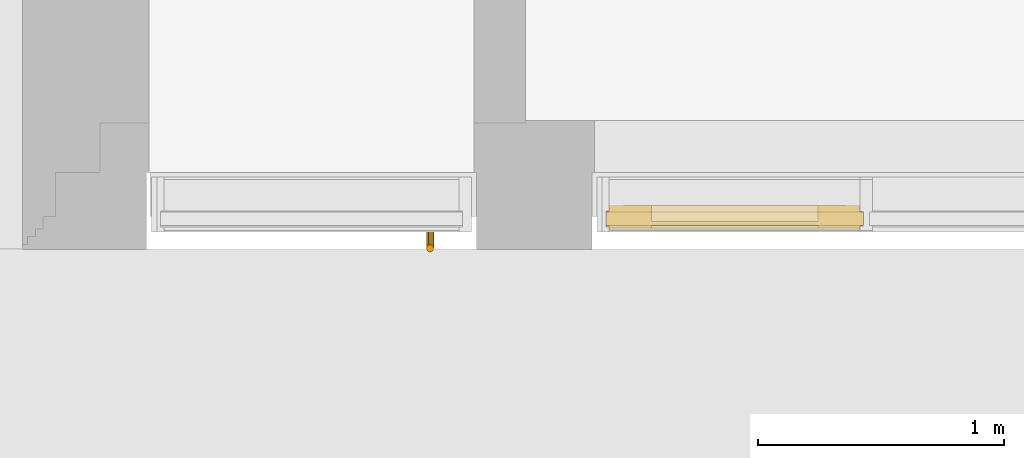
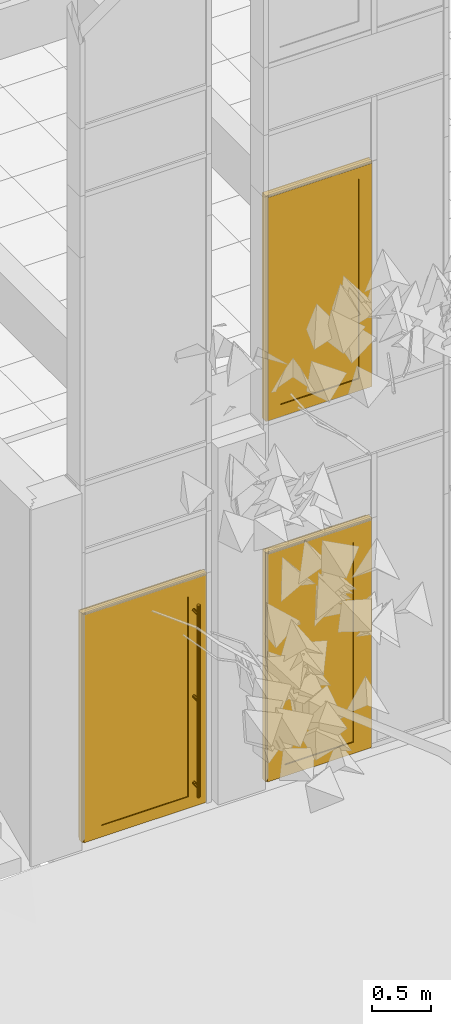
# One storey, part 143 of 246: 2 doors, 1 window, 2 elements without a shape of their own.
"""IFC2X3 building model written with IfcOpenShell, lengths in millimetres."""

import ifcopenshell
import ifcopenshell.guid

model = None  # the IFC model being written
_history = None  # IfcOwnerHistory: only IFC2X3 demands one
_inside = {}  # id of a spatial element -> (the spatial element, [elements in it])
_under = {}  # id of a project, library or spatial element -> (it, [spatial elements below it])
_declared = {}  # id of a project -> (the project, [libraries it declares])
_typed = {}  # id of a type object -> (the type object, [elements of that type])
_made_of = {}  # id of a material, layer set ... -> (it, [elements and type objects made of it])


def new_model(schema):
    """Start an empty IFC model of exactly this schema.

    Asked for "IFC4X3", IfcOpenShell would pick the latest addendum, in which some entities
    have other attributes; the version numbers below select the first issue.
    IFC2X3 requires an IfcOwnerHistory on every rooted entity: one is made here for all.
    """
    global model, _history
    if schema == "IFC4X3":
        model = ifcopenshell.file(schema_version=(4, 3, 0, 0))
    else:
        model = ifcopenshell.file(schema=schema)
    _inside.clear()
    _under.clear()
    _declared.clear()
    _typed.clear()
    _made_of.clear()
    _history = None
    if model.schema == "IFC2X3":
        org = make("IfcOrganization", Name="unknown")
        user = make(
            "IfcPersonAndOrganization",
            ThePerson=make("IfcPerson", FamilyName="unknown"),
            TheOrganization=org,
        )
        app = make(
            "IfcApplication",
            ApplicationDeveloper=org,
            Version="unknown",
            ApplicationFullName="unknown",
            ApplicationIdentifier="unknown",
        )
        _history = make(
            "IfcOwnerHistory",
            OwningUser=user,
            OwningApplication=app,
            ChangeAction="ADDED",
            CreationDate=0,
        )
    return model


def make(cls, **values):
    """One entity of the class cls with the attributes given. An attribute that is None is left unset."""
    return model.create_entity(
        cls, **{name: value for name, value in values.items() if value is not None}
    )


def entity(cls, *values):
    """Any entity or typed value of the class cls, its attributes in the order of the schema. None: left unset."""
    e = model.create_entity(cls)
    for i, value in enumerate(values):
        if value is not None:
            e[i] = value
    return e


def rooted(cls, **values):
    """An entity with a GlobalId (a new one), such as an element, a storey or a relation."""
    return make(cls, GlobalId=ifcopenshell.guid.new(), OwnerHistory=_history, **values)


def si_unit(unit_type, name, prefix=None):
    """IfcSIUnit, for example si_unit("LENGTHUNIT", "METRE", prefix="MILLI")."""
    return make("IfcSIUnit", UnitType=unit_type, Prefix=prefix, Name=name)


def converted_unit(unit_type, name, factor, base, dimensions=None, offset=None):
    """IfcConversionBasedUnit, such as the inch: factor (a typed value) times the base unit."""
    return make(
        "IfcConversionBasedUnit"
        if offset is None
        else "IfcConversionBasedUnitWithOffset",
        ConversionOffset=offset,
        Dimensions=None
        if dimensions is None
        else entity("IfcDimensionalExponents", *dimensions),
        UnitType=unit_type,
        Name=name,
        ConversionFactor=make(
            "IfcMeasureWithUnit", ValueComponent=factor, UnitComponent=base
        ),
    )


def derived_unit(unit_type, elements):
    """IfcDerivedUnit: a product of units, each with its exponent."""
    return make(
        "IfcDerivedUnit",
        Elements=[
            make("IfcDerivedUnitElement", Unit=unit, Exponent=power)
            for unit, power in elements
        ],
        UnitType=unit_type,
    )


def money_unit(currency):
    """IfcMonetaryUnit."""
    return make("IfcMonetaryUnit", Currency=currency)


def assignment(units):
    """IfcUnitAssignment: the units of a project."""
    return None if units is None else make("IfcUnitAssignment", Units=units)


def point(xyz):
    """IfcCartesianPoint."""
    return None if xyz is None else make("IfcCartesianPoint", Coordinates=xyz)


def direction(xyz):
    """IfcDirection."""
    return None if xyz is None else make("IfcDirection", DirectionRatios=xyz)


def frame(location, z_axis=None, x_axis=None):
    """IfcAxis2Placement3D, a coordinate frame: its origin and axes. An axis left out is left unset."""
    return make(
        "IfcAxis2Placement3D",
        Location=point(location),
        Axis=direction(z_axis),
        RefDirection=direction(x_axis),
    )


def origin_with_axes():
    """The frame at (0, 0, 0) with the z axis (0, 0, 1) and the x axis (1, 0, 0) written out."""
    return frame((0.0, 0.0, 0.0), z_axis=(0.0, 0.0, 1.0), x_axis=(1.0, 0.0, 0.0))


def place(relative_to, where):
    """IfcLocalPlacement: puts the frame where relative to a parent placement (None: the world)."""
    return make(
        "IfcLocalPlacement", PlacementRelTo=relative_to, RelativePlacement=where
    )


def context(
    kind, dimensions, precision=None, world=None, true_north=None, identifier=None
):
    """IfcGeometricRepresentationContext, for example the 3D "Model" context."""
    return make(
        "IfcGeometricRepresentationContext",
        ContextIdentifier=identifier,
        ContextType=kind,
        CoordinateSpaceDimension=dimensions,
        Precision=precision,
        WorldCoordinateSystem=world,
        TrueNorth=true_north,
    )


def subcontext(parent, identifier, kind, view, scale=None):
    """IfcGeometricRepresentationSubContext, for example "Body" below "Model"."""
    return make(
        "IfcGeometricRepresentationSubContext",
        ContextIdentifier=identifier,
        ContextType=kind,
        ParentContext=parent,
        TargetScale=scale,
        TargetView=view,
    )


def project(units=None, contexts=None):
    """IfcProject with its units and contexts."""
    return rooted(
        "IfcProject",
        Name="project",
        RepresentationContexts=contexts,
        UnitsInContext=assignment(units),
    )


def spatial(cls, under=None, at=None, **own):
    """A site, building, storey or space (cls), placed at a placement, below another one or the project."""
    s = rooted(cls, ObjectPlacement=at, **own)
    if under is not None:
        _under.setdefault(under.id(), (under, []))[1].append(s)
    return s


def faces_of(points, faces, orient=None, outer=None):
    """IfcFace entities. A face is a list of loops; a loop is a list of indices into points, from 0.

    orient and outer hold one flag for each loop. By default every Orientation is true, the
    first loop of a face is its IfcFaceOuterBound and the others are IfcFaceBound.
    """
    made = []
    for i, loops in enumerate(faces):
        bounds = []
        for j, loop in enumerate(loops):
            is_outer = j == 0 if outer is None else outer[i][j]
            bounds.append(
                make(
                    "IfcFaceOuterBound" if is_outer else "IfcFaceBound",
                    Bound=make("IfcPolyLoop", Polygon=[points[k] for k in loop]),
                    Orientation=True if orient is None else orient[i][j],
                )
            )
        made.append(make("IfcFace", Bounds=bounds))
    return made


def open_shell(faces, orient=None, outer=None):
    """The faces of one IfcOpenShell. surface_model builds it on its shared points."""
    return ("IfcOpenShell", faces, orient, outer)


def faceted_brep(points, faces, orient=None, outer=None, voids=None):
    """IfcFacetedBrep: a solid bounded by flat faces; with voids (closed shells), ...WithVoids."""
    shared = [point(p) for p in points]
    hull = make("IfcClosedShell", CfsFaces=faces_of(shared, faces, orient, outer))
    if voids is None:
        return make("IfcFacetedBrep", Outer=hull)
    return make(
        "IfcFacetedBrepWithVoids",
        Outer=hull,
        Voids=[
            make(cls, CfsFaces=faces_of(shared, fs, o, b)) for cls, fs, o, b in voids
        ],
    )


def surface_model(cls, points, shells):
    """IfcFaceBasedSurfaceModel or IfcShellBasedSurfaceModel (cls): surfaces that need not close."""
    shared = [point(p) for p in points]
    made = [make(c, CfsFaces=faces_of(shared, fs, o, b)) for c, fs, o, b in shells]
    if cls == "IfcFaceBasedSurfaceModel":
        return make(cls, FbsmFaces=made)
    return make(cls, SbsmBoundary=made)


def shape(context_of_items, identifier, shape_type, items):
    """IfcShapeRepresentation: the items that make up one representation, for example the "Body"."""
    return make(
        "IfcShapeRepresentation",
        ContextOfItems=context_of_items,
        RepresentationIdentifier=identifier,
        RepresentationType=shape_type,
        Items=items,
    )


def source(mapping_origin, context_of_items, identifier, shape_type, items):
    """IfcRepresentationMap: a shape defined once, which mapped items show again and again."""
    return make(
        "IfcRepresentationMap",
        MappingOrigin=mapping_origin,
        MappedRepresentation=shape(context_of_items, identifier, shape_type, items),
    )


def transform(
    local_origin,
    x_axis=None,
    y_axis=None,
    z_axis=None,
    scale=None,
    scale2=None,
    scale3=None,
    uniform=True,
):
    """IfcCartesianTransformationOperator3D, or its non-uniform kind. x_axis, y_axis, z_axis: its Axis1, 2, 3."""
    if uniform:
        return make(
            "IfcCartesianTransformationOperator3D",
            Axis1=direction(x_axis),
            Axis2=direction(y_axis),
            LocalOrigin=point(local_origin),
            Scale=scale,
            Axis3=direction(z_axis),
        )
    return make(
        "IfcCartesianTransformationOperator3DnonUniform",
        Axis1=direction(x_axis),
        Axis2=direction(y_axis),
        LocalOrigin=point(local_origin),
        Scale=scale,
        Axis3=direction(z_axis),
        Scale2=scale2,
        Scale3=scale3,
    )


def mapped(mapping_source, mapping_target):
    """IfcMappedItem: shows the shape of a source again, moved by a transform."""
    return make(
        "IfcMappedItem", MappingSource=mapping_source, MappingTarget=mapping_target
    )


def material(Name=None, Category=None):
    """IfcMaterial."""
    return make("IfcMaterial", Name=Name, Category=Category)


def material_list(materials):
    """IfcMaterialList."""
    return make("IfcMaterialList", Materials=materials)


def made_of(thing, what):
    """Note that an element or type object is made of a material, layer set ...; save() writes the relation."""
    if what is not None:
        _made_of.setdefault(what.id(), (what, []))[1].append(thing)
    return thing


def type_object(cls, material=None, **own):
    """A type object (cls), such as IfcWallType, which elements share."""
    return made_of(rooted(cls, **own), material)


def element(
    cls,
    number,
    at=None,
    inside=None,
    cuts=None,
    type_object=None,
    material=None,
    context=None,
    identifier="Body",
    shape_type=None,
    held_by="IfcProductDefinitionShape",
    body=None,
    shapes=None,
    **own,
):
    """One element of the class cls, such as IfcWall. Its Tag is "e" and its number.

    at: its placement. inside: the storey or other place that contains it. cuts: it is an
    opening in that element (IfcRelVoidsElement). A single representation is given by context,
    identifier, shape_type and body (its items); several are given by shapes. held_by: the class
    of the entity that holds the representations. save() writes the other relations.
    """
    e = rooted(cls, Tag="e%d" % number, ObjectPlacement=at, **own)
    if body is not None:
        shapes = [shape(context, identifier, shape_type, body)]
    if shapes is not None:
        e.Representation = make(held_by, Representations=shapes)
    if inside is not None:
        _inside.setdefault(inside.id(), (inside, []))[1].append(e)
    if cuts is not None:
        rooted(
            "IfcRelVoidsElement", RelatingBuildingElement=cuts, RelatedOpeningElement=e
        )
    if type_object is not None:
        _typed.setdefault(type_object.id(), (type_object, []))[1].append(e)
    return made_of(e, material)


def aggregate(whole, parts):
    """IfcRelAggregates: a whole, such as a stair, and the parts it consists of."""
    return rooted("IfcRelAggregates", RelatingObject=whole, RelatedObjects=parts)


def save(model, path):
    """Write the relations noted so far, then the file.

    IfcRelAggregates (storeys below a building ...), IfcRelContainedInSpatialStructure (elements
    in a storey), IfcRelDefinesByType, IfcRelAssociatesMaterial and IfcRelDeclares: one each for
    every whole, place, type object, material and project.
    """
    for whole, parts in _under.values():
        aggregate(whole, parts)
    for where, things in _inside.values():
        rooted(
            "IfcRelContainedInSpatialStructure",
            RelatedElements=things,
            RelatingStructure=where,
        )
    for kind, things in _typed.values():
        rooted("IfcRelDefinesByType", RelatedObjects=things, RelatingType=kind)
    for what, things in _made_of.values():
        rooted("IfcRelAssociatesMaterial", RelatedObjects=things, RelatingMaterial=what)
    for by, libraries in _declared.values():
        rooted("IfcRelDeclares", RelatingContext=by, RelatedDefinitions=libraries)
    model.write(path)


model = new_model("IFC2X3")

# Units and contexts
model_context = context("Model", 3, precision=0.01, world=origin_with_axes(), true_north=direction((0.0, 1.0)))
body_context = subcontext(model_context, "Body", "Model", "MODEL_VIEW")
ifc_project = project(units=[si_unit("LENGTHUNIT", "METRE", prefix="MILLI"), si_unit("AREAUNIT", "SQUARE_METRE"), si_unit("VOLUMEUNIT", "CUBIC_METRE"), converted_unit("PLANEANGLEUNIT", "DEGREE", entity("IfcPlaneAngleMeasure", 0.0174532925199), si_unit("PLANEANGLEUNIT", "RADIAN"), dimensions=[0, 0, 0, 0, 0, 0, 0]), si_unit("SOLIDANGLEUNIT", "STERADIAN"), money_unit("EUR"), converted_unit("TIMEUNIT", "Year", entity("IfcTimeMeasure", 31556926.0), si_unit("TIMEUNIT", "SECOND"), dimensions=[0, 0, 1, 0, 0, 0, 0]), si_unit("MASSUNIT", "GRAM", prefix="KILO"), si_unit("THERMODYNAMICTEMPERATUREUNIT", "DEGREE_CELSIUS"), si_unit("LUMINOUSINTENSITYUNIT", "LUMEN"), si_unit("ENERGYUNIT", "JOULE", prefix="MEGA"), derived_unit("THERMALCONDUCTANCEUNIT", [(si_unit("POWERUNIT", "WATT"), 1), (si_unit("LENGTHUNIT", "METRE"), -1), (si_unit("THERMODYNAMICTEMPERATUREUNIT", "KELVIN"), -1)]), derived_unit("SPECIFICHEATCAPACITYUNIT", [(si_unit("ENERGYUNIT", "JOULE"), 1), (si_unit("MASSUNIT", "GRAM", prefix="KILO"), -1), (si_unit("THERMODYNAMICTEMPERATUREUNIT", "KELVIN"), -1)]), derived_unit("MASSDENSITYUNIT", [(si_unit("MASSUNIT", "GRAM", prefix="KILO"), 1), (si_unit("VOLUMEUNIT", "CUBIC_METRE"), -1)])], contexts=[model_context])

# Site, building, storey
site_placement = place(None, origin_with_axes())
site = spatial("IfcSite", under=ifc_project, at=site_placement, Name="L.Koidula tn 11b", CompositionType="ELEMENT")
building_placement = place(site_placement, origin_with_axes())
building = spatial("IfcBuilding", under=site, at=building_placement, Name="Rakvere Riigigümnaasium", CompositionType="ELEMENT")
storey_placement = place(building_placement, origin_with_axes())
storey = spatial("IfcBuildingStorey", under=building, at=storey_placement, Name="1.korrus 0,00", CompositionType="ELEMENT", Elevation=0.0)

# Curtain wall, door, window
curtain_wall_type = type_object("IfcCurtainWallType", Name="Curtain Wall Type", PredefinedType="NOTDEFINED")
curtain_wall_1_placement = place(storey_placement, frame((38273.9956035, 5111.45334637, -8.09717250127e-06), z_axis=(0.0, 0.0, 1.0), x_axis=(1.0, 0.0, 0.0)))
curtain_wall_1 = element("IfcCurtainWall", 1, at=curtain_wall_1_placement, inside=storey, type_object=curtain_wall_type, Name="KLF-05-2A")
ifc_material_1 = material(Name="Alumiiniumprofiil (RAL 7021)")
ifc_material_2 = material(Name="Klaaspakett 3x ribikardinatega")
ifc_material_list_1 = material_list([ifc_material_1, ifc_material_2])
door_style_1 = type_object("IfcDoorStyle", Name="1046 x 2388 x 54", ConstructionType="NOTDEFINED", OperationType="NOTDEFINED", ParameterTakesPrecedence=False, Sizeable=False)
shared_shape_1 = source(origin_with_axes(), body_context, "Body", "SurfaceModel", [
    surface_model("IfcShellBasedSurfaceModel", [(1070.0, 0.0, -53.0), (1017.0, 0.0, -53.0), (1017.0, 2322.0, -53.0), (1070.0, 2375.0, -53.0)], [open_shell([[[0, 1, 2, 3]]])]),
    surface_model("IfcShellBasedSurfaceModel", [(50.0, 2375.0, -53.0), (1070.0, 2375.0, -53.0), (1017.0, 2322.0, -53.0), (103.0, 2322.0, -53.0)], [open_shell([[[0, 1, 2, 3]]])]),
    surface_model("IfcShellBasedSurfaceModel", [(50.0, 0.0, -53.0), (50.0, 2375.0, -53.0), (103.0, 2322.0, -53.0), (103.0, 0.0, -53.0)], [open_shell([[[0, 1, 2, 3]]])]),
    faceted_brep([(1070.0, 0.0, -53.0), (1070.0, 2375.0, -53.0), (1070.0, 2375.0, 37.0), (1070.0, 0.0, 37.0), (1017.0, 0.0, -53.0), (1017.0, 2322.0, -53.0), (1017.0, 2322.0, 37.0), (1017.0, 0.0, 37.0)], [[[0, 1, 2, 3]], [[0, 4, 5, 1]], [[1, 5, 6, 2]], [[3, 2, 6, 7]], [[4, 0, 3, 7]], [[5, 4, 7, 6]]]),
    faceted_brep([(50.0, 2375.0, -53.0), (103.0, 2322.0, -53.0), (103.0, 2322.0, 37.0), (50.0, 2375.0, 37.0), (1070.0, 2375.0, -53.0), (1017.0, 2322.0, -53.0), (1017.0, 2322.0, 37.0), (1070.0, 2375.0, 37.0)], [[[0, 1, 2, 3]], [[0, 4, 5, 1]], [[1, 5, 6, 2]], [[3, 2, 6, 7]], [[4, 0, 3, 7]], [[5, 4, 7, 6]]]),
    faceted_brep([(50.0, 0.0, -53.0), (103.0, 0.0, -53.0), (103.0, 0.0, 37.0), (50.0, 0.0, 37.0), (50.0, 2375.0, -53.0), (103.0, 2322.0, -53.0), (103.0, 2322.0, 37.0), (50.0, 2375.0, 37.0)], [[[0, 1, 2, 3]], [[0, 4, 5, 1]], [[1, 5, 6, 2]], [[3, 2, 6, 7]], [[4, 0, 3, 7]], [[5, 4, 7, 6]]]),
    faceted_brep([(1083.0, 0.0, -27.0), (1083.0, 2388.0, -27.0), (1083.0, 2388.0, 27.0), (1083.0, 0.0, 27.0), (1070.0, 0.0, -27.0), (1070.0, 2375.0, -27.0), (1070.0, 2375.0, 27.0), (1070.0, 0.0, 27.0)], [[[0, 1, 2, 3]], [[0, 4, 5, 1]], [[1, 5, 6, 2]], [[3, 2, 6, 7]], [[4, 0, 3, 7]], [[5, 4, 7, 6]]]),
    faceted_brep([(1083.0, 2388.0, -27.0), (37.0, 2388.0, -27.0), (37.0, 2388.0, 27.0), (1083.0, 2388.0, 27.0), (1070.0, 2375.0, -27.0), (50.0, 2375.0, -27.0), (50.0, 2375.0, 27.0), (1070.0, 2375.0, 27.0)], [[[0, 1, 2, 3]], [[0, 4, 5, 1]], [[1, 5, 6, 2]], [[3, 2, 6, 7]], [[4, 0, 3, 7]], [[5, 4, 7, 6]]]),
    faceted_brep([(37.0, 2388.0, -27.0), (37.0, 0.0, -27.0), (37.0, 0.0, 27.0), (37.0, 2388.0, 27.0), (50.0, 2375.0, -27.0), (50.0, 0.0, -27.0), (50.0, 0.0, 27.0), (50.0, 2375.0, 27.0)], [[[0, 1, 2, 3]], [[0, 4, 5, 1]], [[1, 5, 6, 2]], [[3, 2, 6, 7]], [[4, 0, 3, 7]], [[5, 4, 7, 6]]]),
    faceted_brep([(222.0, 119.0, -53.0), (222.0, 2203.0, -53.0), (222.0, 2203.0, 37.0), (222.0, 119.0, 37.0), (103.0, 0.0, -53.0), (103.0, 2322.0, -53.0), (103.0, 2322.0, 37.0), (103.0, 0.0, 37.0)], [[[0, 1, 2, 3]], [[0, 4, 5, 1]], [[1, 5, 6, 2]], [[3, 2, 6, 7]], [[4, 0, 3, 7]], [[5, 4, 7, 6]]]),
    faceted_brep([(1017.0, 0.0, -53.0), (1017.0, 2322.0, -53.0), (1017.0, 2322.0, 37.0), (1017.0, 0.0, 37.0), (898.0, 119.0, -53.0), (898.0, 2203.0, -53.0), (898.0, 2203.0, 37.0), (898.0, 119.0, 37.0)], [[[0, 1, 2, 3]], [[0, 4, 5, 1]], [[1, 5, 6, 2]], [[3, 2, 6, 7]], [[4, 0, 3, 7]], [[5, 4, 7, 6]]]),
    faceted_brep([(1017.0, 0.0, -53.0), (898.0, 119.0, -53.0), (898.0, 119.0, 37.0), (1017.0, 0.0, 37.0), (103.0, 0.0, -53.0), (222.0, 119.0, -53.0), (222.0, 119.0, 37.0), (103.0, 0.0, 37.0)], [[[0, 1, 2, 3]], [[0, 4, 5, 1]], [[1, 5, 6, 2]], [[3, 2, 6, 7]], [[4, 0, 3, 7]], [[5, 4, 7, 6]]]),
    faceted_brep([(103.0, 2322.0, -53.0), (222.0, 2203.0, -53.0), (222.0, 2203.0, 37.0), (103.0, 2322.0, 37.0), (1017.0, 2322.0, -53.0), (898.0, 2203.0, -53.0), (898.0, 2203.0, 37.0), (1017.0, 2322.0, 37.0)], [[[0, 1, 2, 3]], [[0, 4, 5, 1]], [[1, 5, 6, 2]], [[3, 2, 6, 7]], [[4, 0, 3, 7]], [[5, 4, 7, 6]]]),
    faceted_brep([(222.0, 119.0, 11.0), (898.0, 119.0, 11.0), (898.0, 119.0, 27.0), (222.0, 119.0, 27.0), (222.0, 2203.0, 11.0), (898.0, 2203.0, 11.0), (898.0, 2203.0, 27.0), (222.0, 2203.0, 27.0)], [[[0, 1, 2, 3]], [[0, 4, 5, 1]], [[1, 5, 6, 2]], [[3, 2, 6, 7]], [[4, 0, 3, 7]], [[5, 4, 7, 6]]]),
])
door_1_placement = place(curtain_wall_1_placement, frame((-582.333458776, 0.0, 1200.0), z_axis=(0.0, 0.0, 1.0), x_axis=(-1.0, 0.0, 0.0)))
door_1 = element("IfcDoor", 2, at=door_1_placement, type_object=door_style_1, material=ifc_material_list_1, Name="KLF-05-VU-2", ObjectType="DOOR", context=body_context, shape_type="MappedRepresentation", body=[
    mapped(shared_shape_1, transform((371.666628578, 0.0, -1200.0), x_axis=(-1.0, 0.0, 0.0), y_axis=(0.0, 0.0, 1.0), z_axis=(0.0, 1.0, 0.0))),
])
window_style = type_object("IfcWindowStyle", Name="1046 x 2351 x 65", ConstructionType="NOTDEFINED", OperationType="NOTDEFINED", ParameterTakesPrecedence=False, Sizeable=False)
shared_shape_2 = source(origin_with_axes(), body_context, "Body", "SurfaceModel", [
    surface_model("IfcShellBasedSurfaceModel", [(50.0000055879, 24.9999850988, 43.5), (109.000005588, 83.9999850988, 43.5), (1010.9999851, 83.9999850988, 43.5), (1069.9999851, 24.9999850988, 43.5)], [open_shell([[[0, 1, 2, 3]]])]),
    surface_model("IfcShellBasedSurfaceModel", [(1069.9999851, 24.9999850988, 43.5), (1010.9999851, 83.9999850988, 43.5), (1010.9999851, 2291.0000149, 43.5), (1069.9999851, 2350.0000149, 43.5)], [open_shell([[[0, 1, 2, 3]]])]),
    surface_model("IfcShellBasedSurfaceModel", [(50.0000055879, 2350.0000149, 43.5), (1069.9999851, 2350.0000149, 43.5), (1010.9999851, 2291.0000149, 43.5), (109.000005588, 2291.0000149, 43.5)], [open_shell([[[0, 1, 2, 3]]])]),
    surface_model("IfcShellBasedSurfaceModel", [(50.0000055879, 24.9999850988, 43.5), (50.0000055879, 2350.0000149, 43.5), (109.000005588, 2291.0000149, 43.5), (109.000005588, 83.9999850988, 43.5)], [open_shell([[[0, 1, 2, 3]]])]),
    faceted_brep([(50.0000055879, 24.9999850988, -45.5), (1069.9999851, 24.9999850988, -45.5), (1069.9999851, 24.9999850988, 43.5), (50.0000055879, 24.9999850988, 43.5), (109.000005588, 83.9999850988, -45.5), (1010.9999851, 83.9999850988, -45.5), (1010.9999851, 83.9999850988, 43.5), (109.000005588, 83.9999850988, 43.5)], [[[0, 1, 2, 3]], [[0, 4, 5, 1]], [[1, 5, 6, 2]], [[3, 2, 6, 7]], [[4, 0, 3, 7]], [[5, 4, 7, 6]]]),
    faceted_brep([(1069.9999851, 24.9999850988, -45.5), (1069.9999851, 2350.0000149, -45.5), (1069.9999851, 2350.0000149, 43.5), (1069.9999851, 24.9999850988, 43.5), (1010.9999851, 83.9999850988, -45.5), (1010.9999851, 2291.0000149, -45.5), (1010.9999851, 2291.0000149, 43.5), (1010.9999851, 83.9999850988, 43.5)], [[[0, 1, 2, 3]], [[0, 4, 5, 1]], [[1, 5, 6, 2]], [[3, 2, 6, 7]], [[4, 0, 3, 7]], [[5, 4, 7, 6]]]),
    faceted_brep([(50.0000055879, 2350.0000149, -45.5), (109.000005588, 2291.0000149, -45.5), (109.000005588, 2291.0000149, 43.5), (50.0000055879, 2350.0000149, 43.5), (1069.9999851, 2350.0000149, -45.5), (1010.9999851, 2291.0000149, -45.5), (1010.9999851, 2291.0000149, 43.5), (1069.9999851, 2350.0000149, 43.5)], [[[0, 1, 2, 3]], [[0, 4, 5, 1]], [[1, 5, 6, 2]], [[3, 2, 6, 7]], [[4, 0, 3, 7]], [[5, 4, 7, 6]]]),
    faceted_brep([(50.0000055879, 24.9999850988, -45.5), (109.000005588, 83.9999850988, -45.5), (109.000005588, 83.9999850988, 43.5), (50.0000055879, 24.9999850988, 43.5), (50.0000055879, 2350.0000149, -45.5), (109.000005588, 2291.0000149, -45.5), (109.000005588, 2291.0000149, 43.5), (50.0000055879, 2350.0000149, 43.5)], [[[0, 1, 2, 3]], [[0, 4, 5, 1]], [[1, 5, 6, 2]], [[3, 2, 6, 7]], [[4, 0, 3, 7]], [[5, 4, 7, 6]]]),
    faceted_brep([(36.9999836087, 11.9999985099, -32.5), (1083.00000708, 11.9999985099, -32.5), (1083.00000708, 11.9999985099, 32.5), (36.9999836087, 11.9999985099, 32.5), (50.0000055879, 24.9999850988, -32.5), (1069.9999851, 24.9999850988, -32.5), (1069.9999851, 24.9999850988, 32.5), (50.0000055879, 24.9999850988, 32.5)], [[[0, 1, 2, 3]], [[0, 4, 5, 1]], [[1, 5, 6, 2]], [[3, 2, 6, 7]], [[4, 0, 3, 7]], [[5, 4, 7, 6]]]),
    faceted_brep([(1083.00000708, 11.9999985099, -32.5), (1083.00000708, 2363.00000149, -32.5), (1083.00000708, 2363.00000149, 32.5), (1083.00000708, 11.9999985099, 32.5), (1069.9999851, 24.9999850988, -32.5), (1069.9999851, 2350.0000149, -32.5), (1069.9999851, 2350.0000149, 32.5), (1069.9999851, 24.9999850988, 32.5)], [[[0, 1, 2, 3]], [[0, 4, 5, 1]], [[1, 5, 6, 2]], [[3, 2, 6, 7]], [[4, 0, 3, 7]], [[5, 4, 7, 6]]]),
    faceted_brep([(1083.00000708, 2363.00000149, -32.5), (36.9999836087, 2363.00000149, -32.5), (36.9999836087, 2363.00000149, 32.5), (1083.00000708, 2363.00000149, 32.5), (1069.9999851, 2350.0000149, -32.5), (50.0000055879, 2350.0000149, -32.5), (50.0000055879, 2350.0000149, 32.5), (1069.9999851, 2350.0000149, 32.5)], [[[0, 1, 2, 3]], [[0, 4, 5, 1]], [[1, 5, 6, 2]], [[3, 2, 6, 7]], [[4, 0, 3, 7]], [[5, 4, 7, 6]]]),
    faceted_brep([(36.9999836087, 2363.00000149, -32.5), (36.9999836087, 11.9999985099, -32.5), (36.9999836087, 11.9999985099, 32.5), (36.9999836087, 2363.00000149, 32.5), (50.0000055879, 2350.0000149, -32.5), (50.0000055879, 24.9999850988, -32.5), (50.0000055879, 24.9999850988, 32.5), (50.0000055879, 2350.0000149, 32.5)], [[[0, 1, 2, 3]], [[0, 4, 5, 1]], [[1, 5, 6, 2]], [[3, 2, 6, 7]], [[4, 0, 3, 7]], [[5, 4, 7, 6]]]),
    faceted_brep([(172.000005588, 146.999985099, 43.5), (172.000005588, 146.999985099, -56.5), (172.000005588, 2228.0000149, -56.5), (172.000005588, 2228.0000149, 43.5), (109.000005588, 83.9999850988, 43.5), (109.000005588, 83.9999850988, -56.5), (109.000005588, 2291.0000149, -56.5), (109.000005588, 2291.0000149, 43.5)], [[[0, 1, 2, 3]], [[4, 5, 1, 0]], [[1, 5, 6, 2]], [[3, 2, 6, 7]], [[0, 3, 7, 4]], [[7, 6, 5, 4]]]),
    faceted_brep([(1010.9999851, 83.9999850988, 43.5), (1010.9999851, 83.9999850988, -56.5), (1010.9999851, 2291.0000149, -56.5), (1010.9999851, 2291.0000149, 43.5), (947.999985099, 146.999985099, 43.5), (947.999985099, 146.999985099, -56.5), (947.999985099, 2228.0000149, -56.5), (947.999985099, 2228.0000149, 43.5)], [[[0, 1, 2, 3]], [[4, 5, 1, 0]], [[1, 5, 6, 2]], [[3, 2, 6, 7]], [[0, 3, 7, 4]], [[7, 6, 5, 4]]]),
    faceted_brep([(1010.9999851, 83.9999850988, 43.5), (1010.9999851, 83.9999850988, -56.5), (947.999985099, 146.999985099, -56.5), (947.999985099, 146.999985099, 43.5), (109.000005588, 83.9999850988, 43.5), (109.000005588, 83.9999850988, -56.5), (172.000005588, 146.999985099, -56.5), (172.000005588, 146.999985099, 43.5)], [[[0, 1, 2, 3]], [[4, 5, 1, 0]], [[1, 5, 6, 2]], [[3, 2, 6, 7]], [[0, 3, 7, 4]], [[7, 6, 5, 4]]]),
    faceted_brep([(109.000005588, 2291.0000149, 43.5), (109.000005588, 2291.0000149, -56.5), (172.000005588, 2228.0000149, -56.5), (172.000005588, 2228.0000149, 43.5), (1010.9999851, 2291.0000149, 43.5), (1010.9999851, 2291.0000149, -56.5), (947.999985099, 2228.0000149, -56.5), (947.999985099, 2228.0000149, 43.5)], [[[0, 1, 2, 3]], [[4, 5, 1, 0]], [[1, 5, 6, 2]], [[3, 2, 6, 7]], [[0, 3, 7, 4]], [[7, 6, 5, 4]]]),
    faceted_brep([(172.000005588, 146.999985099, 32.5), (172.000005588, 146.999985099, -32.5), (947.999985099, 146.999985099, -32.5), (947.999985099, 146.999985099, 32.5), (172.000005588, 2228.0000149, 32.5), (172.000005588, 2228.0000149, -32.5), (947.999985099, 2228.0000149, -32.5), (947.999985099, 2228.0000149, 32.5)], [[[0, 1, 2, 3]], [[4, 5, 1, 0]], [[1, 5, 6, 2]], [[3, 2, 6, 7]], [[0, 3, 7, 4]], [[7, 6, 5, 4]]]),
])
window_placement = place(curtain_wall_1_placement, frame((-582.333458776, 0.0, 4932.5), z_axis=(0.0, 0.0, 1.0), x_axis=(-1.0, 0.0, 0.0)))
window = element("IfcWindow", 3, at=window_placement, type_object=window_style, material=ifc_material_list_1, Name="KLF-05-A-1", ObjectType="WINDOW", context=body_context, shape_type="MappedRepresentation", body=[
    mapped(shared_shape_2, transform((371.666628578, 0.0, -1187.5), x_axis=(-1.0, 0.0, 0.0), y_axis=(0.0, 0.0, 1.0), z_axis=(0.0, 1.0, 0.0))),
])
aggregate(curtain_wall_1, [door_1, window])

# Curtain wall, door
curtain_wall_2_placement = place(storey_placement, frame((35950.585925, 5111.45334637, -1.61944652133e-05), z_axis=(0.0, 0.0, 1.0), x_axis=(1.0, 0.0, 0.0)))
curtain_wall_2 = element("IfcCurtainWall", 4, at=curtain_wall_2_placement, inside=storey, type_object=curtain_wall_type, Name="KLF-05-1A")
ifc_material_3 = material(Name="VKR-05_Klaas")
ifc_material_4 = material(Name="teras_must")
ifc_material_5 = material(Name="GENERIC - STRUCTURAL")
ifc_material_list_2 = material_list([ifc_material_1, ifc_material_3, ifc_material_4, ifc_material_5])
door_style_2 = type_object("IfcDoorStyle", Name="1226 x 2388 x 54", ConstructionType="NOTDEFINED", OperationType="NOTDEFINED", ParameterTakesPrecedence=False, Sizeable=False)
shared_shape_3 = source(origin_with_axes(), body_context, "Body", "SurfaceModel", [
    surface_model("IfcShellBasedSurfaceModel", [(1250.22147915, 0.0, -53.0), (1197.22147915, 0.0, -53.0), (1197.22147915, 2322.0, -53.0), (1250.22147915, 2375.0, -53.0)], [open_shell([[[0, 1, 2, 3]]])]),
    surface_model("IfcShellBasedSurfaceModel", [(50.0, 2375.0, -53.0), (1250.22147915, 2375.0, -53.0), (1197.22147915, 2322.0, -53.0), (103.0, 2322.0, -53.0)], [open_shell([[[0, 1, 2, 3]]])]),
    surface_model("IfcShellBasedSurfaceModel", [(50.0, 0.0, -53.0), (50.0, 2375.0, -53.0), (103.0, 2322.0, -53.0), (103.0, 0.0, -53.0)], [open_shell([[[0, 1, 2, 3]]])]),
    faceted_brep([(1250.22147915, 0.0, -53.0), (1250.22147915, 2375.0, -53.0), (1250.22147915, 2375.0, 37.0), (1250.22147915, 0.0, 37.0), (1197.22147915, 0.0, -53.0), (1197.22147915, 2322.0, -53.0), (1197.22147915, 2322.0, 37.0), (1197.22147915, 0.0, 37.0)], [[[0, 1, 2, 3]], [[0, 4, 5, 1]], [[1, 5, 6, 2]], [[3, 2, 6, 7]], [[4, 0, 3, 7]], [[5, 4, 7, 6]]]),
    faceted_brep([(50.0, 2375.0, -53.0), (103.0, 2322.0, -53.0), (103.0, 2322.0, 37.0), (50.0, 2375.0, 37.0), (1250.22147915, 2375.0, -53.0), (1197.22147915, 2322.0, -53.0), (1197.22147915, 2322.0, 37.0), (1250.22147915, 2375.0, 37.0)], [[[0, 1, 2, 3]], [[0, 4, 5, 1]], [[1, 5, 6, 2]], [[3, 2, 6, 7]], [[4, 0, 3, 7]], [[5, 4, 7, 6]]]),
    faceted_brep([(50.0, 0.0, -53.0), (103.0, 0.0, -53.0), (103.0, 0.0, 37.0), (50.0, 0.0, 37.0), (50.0, 2375.0, -53.0), (103.0, 2322.0, -53.0), (103.0, 2322.0, 37.0), (50.0, 2375.0, 37.0)], [[[0, 1, 2, 3]], [[0, 4, 5, 1]], [[1, 5, 6, 2]], [[3, 2, 6, 7]], [[4, 0, 3, 7]], [[5, 4, 7, 6]]]),
    faceted_brep([(1263.22147915, 0.0, -27.0), (1263.22147915, 2388.0, -27.0), (1263.22147915, 2388.0, 27.0), (1263.22147915, 0.0, 27.0), (1250.22147915, 0.0, -27.0), (1250.22147915, 2375.0, -27.0), (1250.22147915, 2375.0, 27.0), (1250.22147915, 0.0, 27.0)], [[[0, 1, 2, 3]], [[0, 4, 5, 1]], [[1, 5, 6, 2]], [[3, 2, 6, 7]], [[4, 0, 3, 7]], [[5, 4, 7, 6]]]),
    faceted_brep([(1263.22147915, 2388.0, -27.0), (37.0, 2388.0, -27.0), (37.0, 2388.0, 27.0), (1263.22147915, 2388.0, 27.0), (1250.22147915, 2375.0, -27.0), (50.0, 2375.0, -27.0), (50.0, 2375.0, 27.0), (1250.22147915, 2375.0, 27.0)], [[[0, 1, 2, 3]], [[0, 4, 5, 1]], [[1, 5, 6, 2]], [[3, 2, 6, 7]], [[4, 0, 3, 7]], [[5, 4, 7, 6]]]),
    faceted_brep([(37.0, 2388.0, -27.0), (37.0, 0.0, -27.0), (37.0, 0.0, 27.0), (37.0, 2388.0, 27.0), (50.0, 2375.0, -27.0), (50.0, 0.0, -27.0), (50.0, 0.0, 27.0), (50.0, 2375.0, 27.0)], [[[0, 1, 2, 3]], [[0, 4, 5, 1]], [[1, 5, 6, 2]], [[3, 2, 6, 7]], [[4, 0, 3, 7]], [[5, 4, 7, 6]]]),
    faceted_brep([(222.0, 119.0, -53.0), (222.0, 2203.0, -53.0), (222.0, 2203.0, 37.0), (222.0, 119.0, 37.0), (103.0, 0.0, -53.0), (103.0, 2322.0, -53.0), (103.0, 2322.0, 37.0), (103.0, 0.0, 37.0)], [[[0, 1, 2, 3]], [[0, 4, 5, 1]], [[1, 5, 6, 2]], [[3, 2, 6, 7]], [[4, 0, 3, 7]], [[5, 4, 7, 6]]]),
    faceted_brep([(1197.22147915, 0.0, -53.0), (1197.22147915, 2322.0, -53.0), (1197.22147915, 2322.0, 37.0), (1197.22147915, 0.0, 37.0), (1078.22147915, 119.0, -53.0), (1078.22147915, 2203.0, -53.0), (1078.22147915, 2203.0, 37.0), (1078.22147915, 119.0, 37.0)], [[[0, 1, 2, 3]], [[0, 4, 5, 1]], [[1, 5, 6, 2]], [[3, 2, 6, 7]], [[4, 0, 3, 7]], [[5, 4, 7, 6]]]),
    faceted_brep([(1197.22147915, 0.0, -53.0), (1078.22147915, 119.0, -53.0), (1078.22147915, 119.0, 37.0), (1197.22147915, 0.0, 37.0), (103.0, 0.0, -53.0), (222.0, 119.0, -53.0), (222.0, 119.0, 37.0), (103.0, 0.0, 37.0)], [[[0, 1, 2, 3]], [[0, 4, 5, 1]], [[1, 5, 6, 2]], [[3, 2, 6, 7]], [[4, 0, 3, 7]], [[5, 4, 7, 6]]]),
    faceted_brep([(103.0, 2322.0, -53.0), (222.0, 2203.0, -53.0), (222.0, 2203.0, 37.0), (103.0, 2322.0, 37.0), (1197.22147915, 2322.0, -53.0), (1078.22147915, 2203.0, -53.0), (1078.22147915, 2203.0, 37.0), (1197.22147915, 2322.0, 37.0)], [[[0, 1, 2, 3]], [[0, 4, 5, 1]], [[1, 5, 6, 2]], [[3, 2, 6, 7]], [[4, 0, 3, 7]], [[5, 4, 7, 6]]]),
    faceted_brep([(222.0, 119.0, 11.0), (1078.22147915, 119.0, 11.0), (1078.22147915, 119.0, 27.0), (222.0, 119.0, 27.0), (222.0, 2203.0, 11.0), (1078.22147915, 2203.0, 11.0), (1078.22147915, 2203.0, 27.0), (222.0, 2203.0, 27.0)], [[[0, 1, 2, 3]], [[0, 4, 5, 1]], [[1, 5, 6, 2]], [[3, 2, 6, 7]], [[4, 0, 3, 7]], [[5, 4, 7, 6]]]),
    faceted_brep([(1145.21186021, 2150.0, 112.499999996), (1145.21186021, 150.0, 112.499999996), (1139.72147915, 150.0, 107.009618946), (1139.72147915, 2150.0, 107.009618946), (1147.22147915, 2150.0, 119.999999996), (1147.22147915, 150.0, 119.999999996), (1145.21186021, 150.0, 127.499999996), (1139.72147915, 150.0, 132.990381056), (1132.22147915, 150.0, 134.999999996), (1124.72147915, 150.0, 132.990381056), (1119.2310981, 150.0, 127.499999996), (1117.22147915, 150.0, 119.999999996), (1119.2310981, 150.0, 112.499999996), (1124.72147915, 150.0, 107.009618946), (1132.22147915, 150.0, 104.999999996), (1132.22147915, 2150.0, 104.999999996), (1124.72147915, 2150.0, 107.009618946), (1119.2310981, 2150.0, 112.499999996), (1117.22147915, 2150.0, 119.999999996), (1119.2310981, 2150.0, 127.499999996), (1124.72147915, 2150.0, 132.990381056), (1132.22147915, 2150.0, 134.999999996), (1139.72147915, 2150.0, 132.990381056), (1145.21186021, 2150.0, 127.499999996)], [[[0, 1, 2, 3]], [[4, 5, 1, 0]], [[5, 6, 7, 8, 9, 10, 11, 12, 13, 14, 2, 1]], [[3, 2, 14, 15]], [[0, 3, 15, 16, 17, 18, 19, 20, 21, 22, 23, 4]], [[4, 23, 6, 5]], [[22, 7, 6, 23]], [[22, 21, 8, 7]], [[20, 9, 8, 21]], [[19, 10, 9, 20]], [[18, 11, 10, 19]], [[12, 11, 18, 17]], [[16, 13, 12, 17]], [[15, 14, 13, 16]]]),
    faceted_brep([(1119.2310981, 2057.5, 120.0), (1124.72147915, 2062.99038105, 120.0), (1124.72147915, 2062.99038105, 37.0), (1119.2310981, 2057.5, 37.0), (1117.22147915, 2050.0, 120.0), (1119.2310981, 2042.5, 120.0), (1124.72147915, 2037.00961894, 120.0), (1132.22147915, 2035.0, 120.0), (1139.72147915, 2037.00961894, 120.0), (1145.21186021, 2042.5, 120.0), (1147.22147915, 2050.0, 120.0), (1145.21186021, 2057.5, 120.0), (1139.72147915, 2062.99038105, 120.0), (1132.22147915, 2065.0, 120.0), (1132.22147915, 2065.0, 37.0), (1139.72147915, 2062.99038105, 37.0), (1145.21186021, 2057.5, 37.0), (1147.22147915, 2050.0, 37.0), (1145.21186021, 2042.5, 37.0), (1139.72147915, 2037.00961894, 37.0), (1132.22147915, 2035.0, 37.0), (1124.72147915, 2037.00961894, 37.0), (1119.2310981, 2042.5, 37.0), (1117.22147915, 2050.0, 37.0)], [[[0, 1, 2, 3]], [[4, 5, 6, 7, 8, 9, 10, 11, 12, 13, 1, 0]], [[2, 1, 13, 14]], [[3, 2, 14, 15, 16, 17, 18, 19, 20, 21, 22, 23]], [[23, 4, 0, 3]], [[23, 22, 5, 4]], [[22, 21, 6, 5]], [[21, 20, 7, 6]], [[19, 8, 7, 20]], [[18, 9, 8, 19]], [[17, 10, 9, 18]], [[16, 11, 10, 17]], [[15, 12, 11, 16]], [[14, 13, 12, 15]]]),
    faceted_brep([(1145.21186021, 242.499999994, 120.0), (1139.72147916, 237.009618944, 120.0), (1139.72147916, 237.009618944, 37.0), (1145.21186021, 242.499999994, 37.0), (1147.22147916, 249.999999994, 120.0), (1145.21186021, 257.499999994, 120.0), (1139.72147916, 262.990381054, 120.0), (1132.22147916, 264.999999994, 120.0), (1124.72147916, 262.990381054, 120.0), (1119.2310981, 257.499999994, 120.0), (1117.22147916, 249.999999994, 120.0), (1119.2310981, 242.499999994, 120.0), (1124.72147916, 237.009618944, 120.0), (1132.22147916, 234.999999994, 120.0), (1132.22147916, 234.999999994, 37.0), (1124.72147916, 237.009618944, 37.0), (1119.2310981, 242.499999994, 37.0), (1117.22147916, 249.999999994, 37.0), (1119.2310981, 257.499999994, 37.0), (1124.72147916, 262.990381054, 37.0), (1132.22147916, 264.999999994, 37.0), (1139.72147916, 262.990381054, 37.0), (1145.21186021, 257.499999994, 37.0), (1147.22147916, 249.999999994, 37.0)], [[[0, 1, 2, 3]], [[4, 5, 6, 7, 8, 9, 10, 11, 12, 13, 1, 0]], [[2, 1, 13, 14]], [[3, 2, 14, 15, 16, 17, 18, 19, 20, 21, 22, 23]], [[23, 4, 0, 3]], [[23, 22, 5, 4]], [[22, 21, 6, 5]], [[21, 20, 7, 6]], [[19, 8, 7, 20]], [[18, 9, 8, 19]], [[17, 10, 9, 18]], [[16, 11, 10, 17]], [[15, 12, 11, 16]], [[14, 13, 12, 15]]]),
    faceted_brep([(1145.21186021, 1142.49999999, 120.0), (1139.72147916, 1137.00961894, 120.0), (1139.72147916, 1137.00961894, 37.0), (1145.21186021, 1142.49999999, 37.0), (1147.22147916, 1149.99999999, 120.0), (1145.21186021, 1157.49999999, 120.0), (1139.72147916, 1162.99038105, 120.0), (1132.22147916, 1164.99999999, 120.0), (1124.72147916, 1162.99038105, 120.0), (1119.2310981, 1157.49999999, 120.0), (1117.22147916, 1149.99999999, 120.0), (1119.2310981, 1142.49999999, 120.0), (1124.72147916, 1137.00961894, 120.0), (1132.22147916, 1134.99999999, 120.0), (1132.22147916, 1134.99999999, 37.0), (1124.72147916, 1137.00961894, 37.0), (1119.2310981, 1142.49999999, 37.0), (1117.22147916, 1149.99999999, 37.0), (1119.2310981, 1157.49999999, 37.0), (1124.72147916, 1162.99038105, 37.0), (1132.22147916, 1164.99999999, 37.0), (1139.72147916, 1162.99038105, 37.0), (1145.21186021, 1157.49999999, 37.0), (1147.22147916, 1149.99999999, 37.0)], [[[0, 1, 2, 3]], [[4, 5, 6, 7, 8, 9, 10, 11, 12, 13, 1, 0]], [[2, 1, 13, 14]], [[3, 2, 14, 15, 16, 17, 18, 19, 20, 21, 22, 23]], [[23, 4, 0, 3]], [[23, 22, 5, 4]], [[22, 21, 6, 5]], [[21, 20, 7, 6]], [[19, 8, 7, 20]], [[18, 9, 8, 19]], [[17, 10, 9, 18]], [[16, 11, 10, 17]], [[15, 12, 11, 16]], [[14, 13, 12, 15]]]),
    faceted_brep([(1145.21186021, 2150.0, -128.499999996), (1139.72147915, 2150.0, -123.009618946), (1139.72147915, 150.0, -123.009618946), (1145.21186021, 150.0, -128.499999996), (1147.22147915, 2150.0, -135.999999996), (1145.21186021, 2150.0, -143.499999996), (1139.72147915, 2150.0, -148.990381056), (1132.22147915, 2150.0, -150.999999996), (1124.72147915, 2150.0, -148.990381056), (1119.2310981, 2150.0, -143.499999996), (1117.22147915, 2150.0, -135.999999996), (1119.2310981, 2150.0, -128.499999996), (1124.72147915, 2150.0, -123.009618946), (1132.22147915, 2150.0, -120.999999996), (1132.22147915, 150.0, -120.999999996), (1147.22147915, 150.0, -135.999999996), (1124.72147915, 150.0, -123.009618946), (1119.2310981, 150.0, -128.499999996), (1117.22147915, 150.0, -135.999999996), (1119.2310981, 150.0, -143.499999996), (1124.72147915, 150.0, -148.990381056), (1132.22147915, 150.0, -150.999999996), (1139.72147915, 150.0, -148.990381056), (1145.21186021, 150.0, -143.499999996)], [[[0, 1, 2, 3]], [[0, 4, 5, 6, 7, 8, 9, 10, 11, 12, 13, 1]], [[1, 13, 14, 2]], [[15, 3, 2, 14, 16, 17, 18, 19, 20, 21, 22, 23]], [[4, 0, 3, 15]], [[4, 15, 23, 5]], [[6, 5, 23, 22]], [[6, 22, 21, 7]], [[8, 7, 21, 20]], [[9, 8, 20, 19]], [[10, 9, 19, 18]], [[17, 11, 10, 18]], [[12, 11, 17, 16]], [[13, 12, 16, 14]]]),
    faceted_brep([(1119.2310981, 2057.5, -136.0), (1119.2310981, 2057.5, -53.0), (1124.72147915, 2062.99038105, -53.0), (1124.72147915, 2062.99038105, -136.0), (1117.22147915, 2050.0, -53.0), (1117.22147915, 2050.0, -136.0), (1119.2310981, 2042.5, -53.0), (1124.72147915, 2037.00961894, -53.0), (1132.22147915, 2035.0, -53.0), (1139.72147915, 2037.00961894, -53.0), (1145.21186021, 2042.5, -53.0), (1147.22147915, 2050.0, -53.0), (1145.21186021, 2057.5, -53.0), (1139.72147915, 2062.99038105, -53.0), (1132.22147915, 2065.0, -53.0), (1132.22147915, 2065.0, -136.0), (1139.72147915, 2062.99038105, -136.0), (1145.21186021, 2057.5, -136.0), (1147.22147915, 2050.0, -136.0), (1145.21186021, 2042.5, -136.0), (1139.72147915, 2037.00961894, -136.0), (1132.22147915, 2035.0, -136.0), (1124.72147915, 2037.00961894, -136.0), (1119.2310981, 2042.5, -136.0)], [[[0, 1, 2, 3]], [[4, 1, 0, 5]], [[1, 4, 6, 7, 8, 9, 10, 11, 12, 13, 14, 2]], [[2, 14, 15, 3]], [[5, 0, 3, 15, 16, 17, 18, 19, 20, 21, 22, 23]], [[4, 5, 23, 6]], [[6, 23, 22, 7]], [[7, 22, 21, 8]], [[9, 8, 21, 20]], [[10, 9, 20, 19]], [[11, 10, 19, 18]], [[12, 11, 18, 17]], [[13, 12, 17, 16]], [[14, 13, 16, 15]]]),
    faceted_brep([(1145.21186021, 242.499999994, -136.0), (1145.21186021, 242.499999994, -53.0), (1139.72147916, 237.009618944, -53.0), (1139.72147916, 237.009618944, -136.0), (1147.22147916, 249.999999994, -53.0), (1147.22147916, 249.999999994, -136.0), (1145.21186021, 257.499999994, -53.0), (1139.72147916, 262.990381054, -53.0), (1132.22147916, 264.999999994, -53.0), (1124.72147916, 262.990381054, -53.0), (1119.2310981, 257.499999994, -53.0), (1117.22147916, 249.999999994, -53.0), (1119.2310981, 242.499999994, -53.0), (1124.72147916, 237.009618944, -53.0), (1132.22147916, 234.999999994, -53.0), (1132.22147916, 234.999999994, -136.0), (1124.72147916, 237.009618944, -136.0), (1119.2310981, 242.499999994, -136.0), (1117.22147916, 249.999999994, -136.0), (1119.2310981, 257.499999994, -136.0), (1124.72147916, 262.990381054, -136.0), (1132.22147916, 264.999999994, -136.0), (1139.72147916, 262.990381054, -136.0), (1145.21186021, 257.499999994, -136.0)], [[[0, 1, 2, 3]], [[4, 1, 0, 5]], [[1, 4, 6, 7, 8, 9, 10, 11, 12, 13, 14, 2]], [[2, 14, 15, 3]], [[5, 0, 3, 15, 16, 17, 18, 19, 20, 21, 22, 23]], [[4, 5, 23, 6]], [[6, 23, 22, 7]], [[7, 22, 21, 8]], [[9, 8, 21, 20]], [[10, 9, 20, 19]], [[11, 10, 19, 18]], [[12, 11, 18, 17]], [[13, 12, 17, 16]], [[14, 13, 16, 15]]]),
    faceted_brep([(1145.21186021, 1142.49999999, -136.0), (1145.21186021, 1142.49999999, -53.0), (1139.72147916, 1137.00961894, -53.0), (1139.72147916, 1137.00961894, -136.0), (1147.22147916, 1149.99999999, -53.0), (1147.22147916, 1149.99999999, -136.0), (1145.21186021, 1157.49999999, -53.0), (1139.72147916, 1162.99038105, -53.0), (1132.22147916, 1164.99999999, -53.0), (1124.72147916, 1162.99038105, -53.0), (1119.2310981, 1157.49999999, -53.0), (1117.22147916, 1149.99999999, -53.0), (1119.2310981, 1142.49999999, -53.0), (1124.72147916, 1137.00961894, -53.0), (1132.22147916, 1134.99999999, -53.0), (1132.22147916, 1134.99999999, -136.0), (1124.72147916, 1137.00961894, -136.0), (1119.2310981, 1142.49999999, -136.0), (1117.22147916, 1149.99999999, -136.0), (1119.2310981, 1157.49999999, -136.0), (1124.72147916, 1162.99038105, -136.0), (1132.22147916, 1164.99999999, -136.0), (1139.72147916, 1162.99038105, -136.0), (1145.21186021, 1157.49999999, -136.0)], [[[0, 1, 2, 3]], [[4, 1, 0, 5]], [[1, 4, 6, 7, 8, 9, 10, 11, 12, 13, 14, 2]], [[2, 14, 15, 3]], [[5, 0, 3, 15, 16, 17, 18, 19, 20, 21, 22, 23]], [[4, 5, 23, 6]], [[6, 23, 22, 7]], [[7, 22, 21, 8]], [[9, 8, 21, 20]], [[10, 9, 20, 19]], [[11, 10, 19, 18]], [[12, 11, 18, 17]], [[13, 12, 17, 16]], [[14, 13, 16, 15]]]),
])
door_2_placement = place(curtain_wall_2_placement, frame((0.0, 0.0, 1200.0), z_axis=(0.0, 0.0, 1.0), x_axis=(-1.0, 0.0, 0.0)))
door_2 = element("IfcDoor", 5, at=door_2_placement, type_object=door_style_2, material=ifc_material_list_2, Name="KLF-05-VU-1", ObjectType="DOOR", context=body_context, shape_type="MappedRepresentation", body=[
    mapped(shared_shape_3, transform((440.585924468, 0.0, -1200.0), x_axis=(-1.0, 0.0, 0.0), y_axis=(0.0, 0.0, 1.0), z_axis=(0.0, 1.0, 0.0))),
])
aggregate(curtain_wall_2, [door_2])

save(model, "model.ifc")
